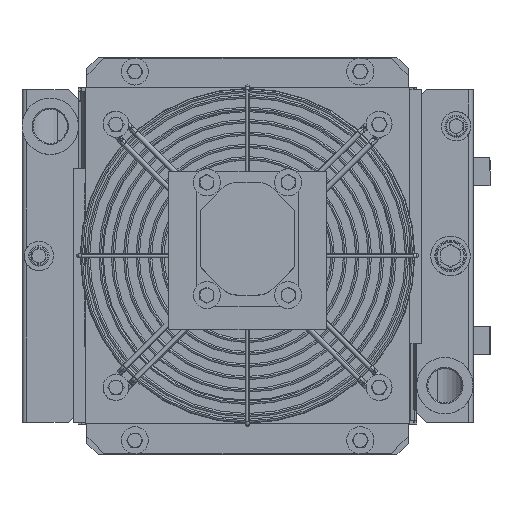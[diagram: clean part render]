
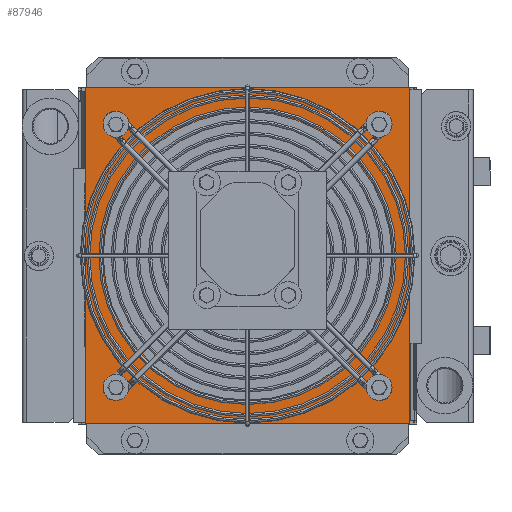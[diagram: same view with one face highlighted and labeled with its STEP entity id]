
A CAD part, top view. The second image highlights one B-rep face of the part: STEP entity #87946.
In plain terms, the highlighted planar face has unit normal (0, 0, 1) as drawn and (1, 0, 0) by its records, which use the part's own axes.
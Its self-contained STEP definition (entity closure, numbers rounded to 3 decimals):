
#62101=CARTESIAN_POINT(' ',(0.,149.,-144.));
#62102=VERTEX_POINT(' ',#62101);
#62116=CARTESIAN_POINT(' ',(0.,-149.,-144.));
#62121=DIRECTION(' ',(0.,1.,0.));
#62126=VECTOR(' ',#62121,1.);
#62131=LINE(' ',#62116,#62126);
#62136=CARTESIAN_POINT(' ',(0.,-149.,-144.));
#62137=VERTEX_POINT(' ',#62136);
#62141=EDGE_CURVE(' ',#62137,#62102,#62131,.T.);
#62416=CARTESIAN_POINT(' ',(0.,-149.,144.));
#62421=DIRECTION(' ',(0.,0.,-1.));
#62426=VECTOR(' ',#62421,1.);
#62431=LINE(' ',#62416,#62426);
#62436=CARTESIAN_POINT(' ',(0.,-149.,144.));
#62437=VERTEX_POINT(' ',#62436);
#62441=EDGE_CURVE(' ',#62437,#62137,#62431,.T.);
#63461=CARTESIAN_POINT(' ',(0.,149.,144.));
#63466=DIRECTION(' ',(0.,-1.,0.));
#63471=VECTOR(' ',#63466,1.);
#63476=LINE(' ',#63461,#63471);
#63481=CARTESIAN_POINT(' ',(0.,149.,144.));
#63482=VERTEX_POINT(' ',#63481);
#63486=EDGE_CURVE(' ',#63482,#62437,#63476,.T.);
#87341=CARTESIAN_POINT(' ',(0.,149.,-144.));
#87346=DIRECTION(' ',(0.,0.,1.));
#87351=VECTOR(' ',#87346,1.);
#87356=LINE(' ',#87341,#87351);
#87361=EDGE_CURVE(' ',#62102,#63482,#87356,.T.);
#87441=CARTESIAN_POINT(' ',(0.,-149.,-144.));
#87446=DIRECTION(' ',(1.,0.,0.));
#87451=DIRECTION(' ',(0.,1.,0.));
#87456=AXIS2_PLACEMENT_3D(' ',#87441,#87446,#87451);
#87461=PLANE(' ',#87456);
#87466=ORIENTED_EDGE(' ',*,*,#62441,.T.);
#87471=ORIENTED_EDGE(' ',*,*,#62141,.T.);
#87476=ORIENTED_EDGE(' ',*,*,#87361,.T.);
#87481=ORIENTED_EDGE(' ',*,*,#63486,.T.);
#87486=EDGE_LOOP(' ',(#87466,#87471,#87476,#87481));
#87491=FACE_OUTER_BOUND(' ',#87486,.T.);
#87496=CARTESIAN_POINT(' ',(0.,0.,0.));
#87501=DIRECTION(' ',(1.,0.,0.));
#87506=DIRECTION(' ',(0.,0.,1.));
#87511=AXIS2_PLACEMENT_3D(' ',#87496,#87501,#87506);
#87516=CIRCLE(' ',#87511,128.);
#87521=CARTESIAN_POINT(' ',(0.,0.,128.));
#87522=VERTEX_POINT(' ',#87521);
#87526=CARTESIAN_POINT(' ',(0.,0.,-128.));
#87527=VERTEX_POINT(' ',#87526);
#87531=EDGE_CURVE(' ',#87522,#87527,#87516,.T.);
#87536=ORIENTED_EDGE(' ',*,*,#87531,.F.);
#87541=CARTESIAN_POINT(' ',(0.,0.,0.));
#87546=DIRECTION(' ',(1.,0.,0.));
#87551=DIRECTION(' ',(0.,0.,-1.));
#87556=AXIS2_PLACEMENT_3D(' ',#87541,#87546,#87551);
#87561=CIRCLE(' ',#87556,128.);
#87566=EDGE_CURVE(' ',#87527,#87522,#87561,.T.);
#87571=ORIENTED_EDGE(' ',*,*,#87566,.F.);
#87576=EDGE_LOOP(' ',(#87536,#87571));
#87581=FACE_BOUND(' ',#87576,.T.);
#87586=CARTESIAN_POINT(' ',(0.,-116.673,116.673));
#87591=DIRECTION(' ',(1.,0.,0.));
#87596=DIRECTION(' ',(0.,0.,1.));
#87601=AXIS2_PLACEMENT_3D(' ',#87586,#87591,#87596);
#87606=CIRCLE(' ',#87601,5.25);
#87611=CARTESIAN_POINT(' ',(0.,-116.673,121.923));
#87612=VERTEX_POINT(' ',#87611);
#87616=CARTESIAN_POINT(' ',(0.,-116.673,111.423));
#87617=VERTEX_POINT(' ',#87616);
#87621=EDGE_CURVE(' ',#87612,#87617,#87606,.T.);
#87626=ORIENTED_EDGE(' ',*,*,#87621,.F.);
#87631=CARTESIAN_POINT(' ',(0.,-116.673,116.673));
#87636=DIRECTION(' ',(1.,0.,0.));
#87641=DIRECTION(' ',(0.,0.,-1.));
#87646=AXIS2_PLACEMENT_3D(' ',#87631,#87636,#87641);
#87651=CIRCLE(' ',#87646,5.25);
#87656=EDGE_CURVE(' ',#87617,#87612,#87651,.T.);
#87661=ORIENTED_EDGE(' ',*,*,#87656,.F.);
#87666=EDGE_LOOP(' ',(#87626,#87661));
#87671=FACE_BOUND(' ',#87666,.T.);
#87676=CARTESIAN_POINT(' ',(0.,116.673,116.673));
#87681=DIRECTION(' ',(1.,0.,0.));
#87686=DIRECTION(' ',(0.,0.,1.));
#87691=AXIS2_PLACEMENT_3D(' ',#87676,#87681,#87686);
#87696=CIRCLE(' ',#87691,5.25);
#87701=CARTESIAN_POINT(' ',(0.,116.673,121.923));
#87702=VERTEX_POINT(' ',#87701);
#87706=CARTESIAN_POINT(' ',(0.,116.673,111.423));
#87707=VERTEX_POINT(' ',#87706);
#87711=EDGE_CURVE(' ',#87702,#87707,#87696,.T.);
#87716=ORIENTED_EDGE(' ',*,*,#87711,.F.);
#87721=CARTESIAN_POINT(' ',(0.,116.673,116.673));
#87726=DIRECTION(' ',(1.,0.,0.));
#87731=DIRECTION(' ',(0.,0.,-1.));
#87736=AXIS2_PLACEMENT_3D(' ',#87721,#87726,#87731);
#87741=CIRCLE(' ',#87736,5.25);
#87746=EDGE_CURVE(' ',#87707,#87702,#87741,.T.);
#87751=ORIENTED_EDGE(' ',*,*,#87746,.F.);
#87756=EDGE_LOOP(' ',(#87716,#87751));
#87761=FACE_BOUND(' ',#87756,.T.);
#87766=CARTESIAN_POINT(' ',(0.,116.673,-116.673));
#87771=DIRECTION(' ',(1.,0.,0.));
#87776=DIRECTION(' ',(0.,0.,1.));
#87781=AXIS2_PLACEMENT_3D(' ',#87766,#87771,#87776);
#87786=CIRCLE(' ',#87781,5.25);
#87791=CARTESIAN_POINT(' ',(0.,116.673,-111.423));
#87792=VERTEX_POINT(' ',#87791);
#87796=CARTESIAN_POINT(' ',(0.,116.673,-121.923));
#87797=VERTEX_POINT(' ',#87796);
#87801=EDGE_CURVE(' ',#87792,#87797,#87786,.T.);
#87806=ORIENTED_EDGE(' ',*,*,#87801,.F.);
#87811=CARTESIAN_POINT(' ',(0.,116.673,-116.673));
#87816=DIRECTION(' ',(1.,0.,0.));
#87821=DIRECTION(' ',(0.,0.,-1.));
#87826=AXIS2_PLACEMENT_3D(' ',#87811,#87816,#87821);
#87831=CIRCLE(' ',#87826,5.25);
#87836=EDGE_CURVE(' ',#87797,#87792,#87831,.T.);
#87841=ORIENTED_EDGE(' ',*,*,#87836,.F.);
#87846=EDGE_LOOP(' ',(#87806,#87841));
#87851=FACE_BOUND(' ',#87846,.T.);
#87856=CARTESIAN_POINT(' ',(0.,-116.673,-116.673));
#87861=DIRECTION(' ',(1.,0.,0.));
#87866=DIRECTION(' ',(0.,0.,1.));
#87871=AXIS2_PLACEMENT_3D(' ',#87856,#87861,#87866);
#87876=CIRCLE(' ',#87871,5.25);
#87881=CARTESIAN_POINT(' ',(0.,-116.673,-111.423));
#87882=VERTEX_POINT(' ',#87881);
#87886=CARTESIAN_POINT(' ',(0.,-116.673,-121.923));
#87887=VERTEX_POINT(' ',#87886);
#87891=EDGE_CURVE(' ',#87882,#87887,#87876,.T.);
#87896=ORIENTED_EDGE(' ',*,*,#87891,.F.);
#87901=CARTESIAN_POINT(' ',(0.,-116.673,-116.673));
#87906=DIRECTION(' ',(1.,0.,0.));
#87911=DIRECTION(' ',(0.,0.,-1.));
#87916=AXIS2_PLACEMENT_3D(' ',#87901,#87906,#87911);
#87921=CIRCLE(' ',#87916,5.25);
#87926=EDGE_CURVE(' ',#87887,#87882,#87921,.T.);
#87931=ORIENTED_EDGE(' ',*,*,#87926,.F.);
#87936=EDGE_LOOP(' ',(#87896,#87931));
#87941=FACE_BOUND(' ',#87936,.T.);
#87946=ADVANCED_FACE(' ',(#87491,#87581,#87671,#87761,#87851,#87941),#87461,.T.);
